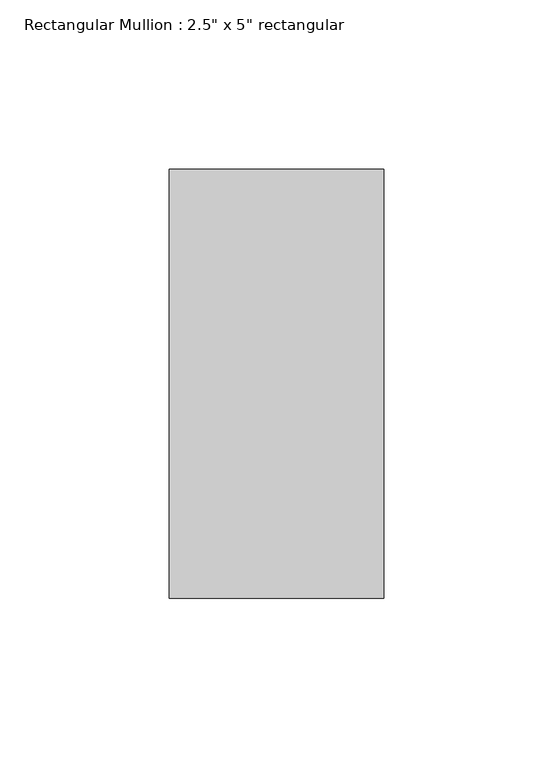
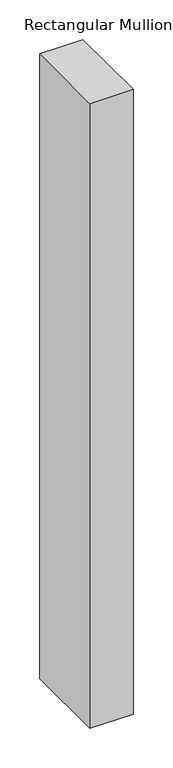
"""IFC4 building model written with IfcOpenShell, lengths in millimetres: member geometry."""

from ifc_helpers import new_model, si_unit, frame, origin, place, context, project, spatial, polyline, outline, extrude, source, transform, mapped, element, save


def member_02a1657a(model_context):
    return source(origin(), model_context, "Body", "SweptSolid", [
        extrude(outline(polyline([(0.0, 63.5), (0.0, -63.5), (-63.5, -63.5), (-63.5, 63.5), (0.0, 63.5)])), frame((0.0, 0.0, -965.1824097), z_axis=(0.0, 0.0, 1.0), x_axis=(1.0, 0.0, 0.0)), (0.0, 0.0, 1.0), 965.1824097),
    ])


if __name__ == "__main__":
    model = new_model("IFC4")
    model_context = context("Model", 3, world=origin())
    ifc_project = project(units=[si_unit("LENGTHUNIT", "METRE", prefix="MILLI")], contexts=[model_context])
    site = spatial("IfcSite", under=ifc_project)
    building = spatial("IfcBuilding", under=site)
    placement = place(None, origin())
    member_shape = member_02a1657a(model_context)
    element("IfcMember", 1, ObjectType="Rectangular Mullion : 2.5\" x 5\" rectangular", at=placement, inside=building, context=model_context, shape_type="MappedRepresentation", body=[
        mapped(member_shape, transform((0.0, 0.0, 0.0), x_axis=(1.0, 0.0, 0.0), y_axis=(0.0, 1.0, 0.0), z_axis=(0.0, 0.0, 1.0))),
    ])
    save(model, "model.ifc")
